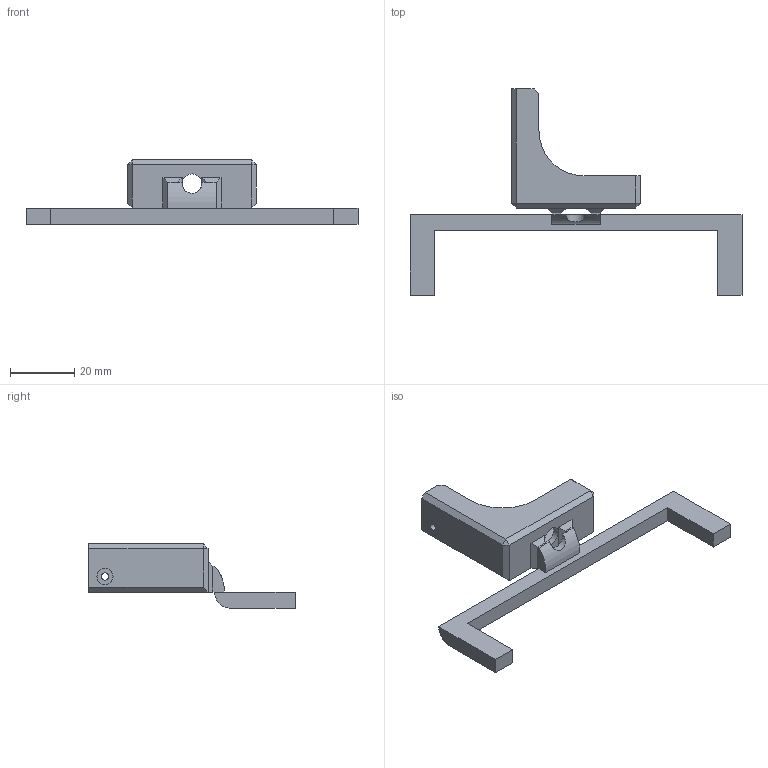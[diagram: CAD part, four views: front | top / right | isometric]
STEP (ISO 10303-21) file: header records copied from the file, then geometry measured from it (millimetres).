
FILE_DESCRIPTION(('Open CASCADE Model'),'2;1');
FILE_NAME('hikrobot-camera-mount.step','2026-11-14T14:31:49',('Author'), ('Open CASCADE'),'Open CASCADE STEP processor 8.0','Open CASCADE 8.0', 'Unknown');
FILE_SCHEMA(('AP242_MANAGED_MODEL_BASED_3D_ENGINEERING_MIM_LF {1 0 10303 442 1 1 4 }' ));
Length unit declared in the file: millimetre
Products named in the file (1): Hikrobot Camera Mount
Bounding box: 103 x 64 x 20 mm (x, y, z)
Volume: 8740.2 mm3; surface area: 7653.9 mm2
Topology: 1 solids, 1 shells, 61 faces, 161 edges, 100 vertices
Faces by surface type: plane 50, cylinder 11
Entity records: 4145 total; most frequent: CARTESIAN_POINT 866, DIRECTION 618, LINE 434, VECTOR 434, ORIENTED_EDGE 322, PCURVE 322, DEFINITIONAL_REPRESENTATION 322, EDGE_CURVE 161
